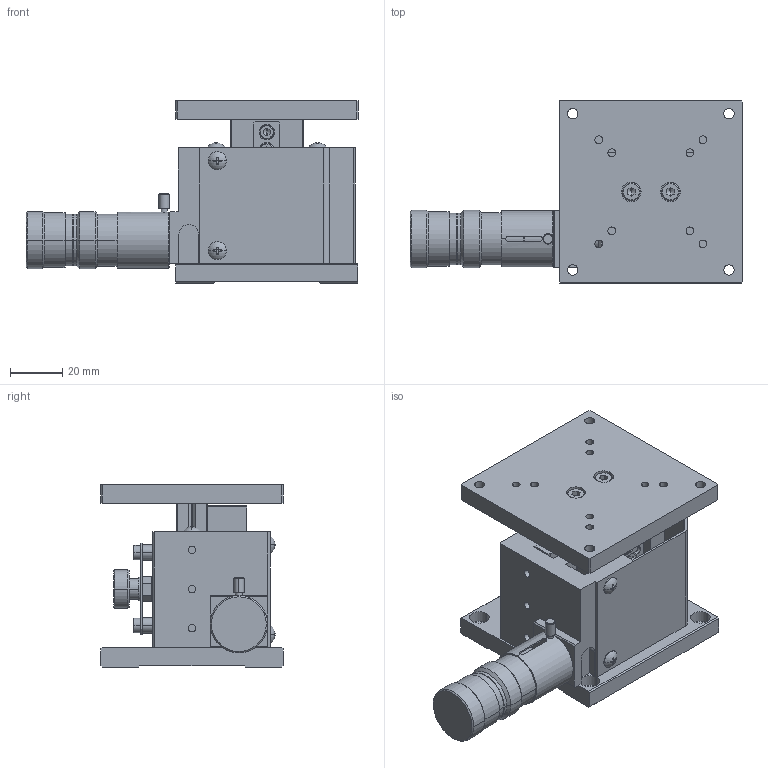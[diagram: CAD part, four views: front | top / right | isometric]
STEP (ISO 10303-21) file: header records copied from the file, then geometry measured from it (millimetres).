
FILE_DESCRIPTION (( 'STEP AP214' ), '1' );
FILE_NAME ('ZM07A-S3K.STEP', '2006-10-10T06:49:49', ( ' ' ), ( ' ' ), 'SwSTEP 2.0', 'SolidWorks 2006052', '' );
FILE_SCHEMA (( 'AUTOMOTIVE_DESIGN' ));
Length unit declared in the file: millimetre
Products named in the file (5): 004610-1220(3D); 004550-1011(3D); 000310-1020(3D); FFP03-13(spindle)-1; ZM07A-S3K
Assembly tree (4 placements, depth 2):
  ZM07A-S3K
    000310-1020(3D)
    004610-1220(3D)
    004550-1011(3D)
    FFP03-13(spindle)-1
Bounding box: 127.5 x 70 x 70 mm (x, y, z)
Volume: 173626 mm3; surface area: 73611.5 mm2
Topology: 4 solids, 51 shells, 1588 faces, 3593 edges, 2122 vertices
Faces by surface type: plane 735, cylinder 513, cone 319, sphere 13, torus 8
Entity records: 44285 total; most frequent: DIRECTION 8137, CARTESIAN_POINT 7873, ORIENTED_EDGE 7026, EDGE_CURVE 3513, AXIS2_PLACEMENT_3D 3098, VERTEX_POINT 2124, VECTOR 1941, LINE 1941
